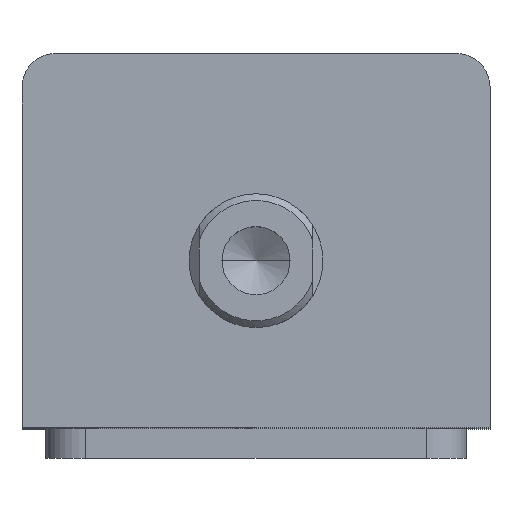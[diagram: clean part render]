
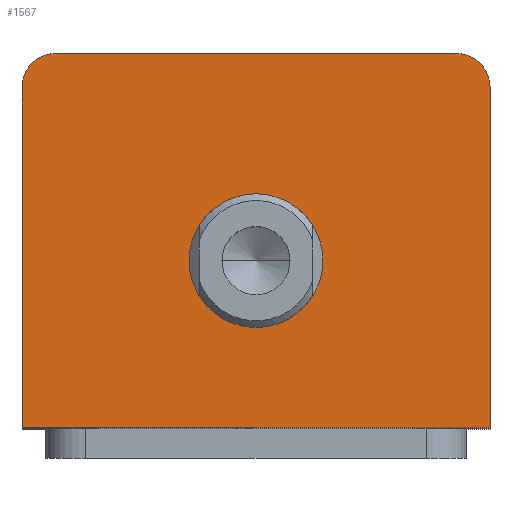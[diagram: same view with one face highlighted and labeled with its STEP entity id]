
A CAD part, top view. The second image highlights one B-rep face of the part: STEP entity #1567.
In plain terms, the highlighted planar face has unit normal (0, 0, 1).
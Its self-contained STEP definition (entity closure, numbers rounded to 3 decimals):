
#7 = VERTEX_POINT ( 'NONE', #2868 ) ;
#14 = VERTEX_POINT ( 'NONE', #2767 ) ;
#72 = VERTEX_POINT ( 'NONE', #2739 ) ;
#78 = VERTEX_POINT ( 'NONE', #2736 ) ;
#104 = VERTEX_POINT ( 'NONE', #1036 ) ;
#121 = VERTEX_POINT ( 'NONE', #945 ) ;
#123 = VERTEX_POINT ( 'NONE', #931 ) ;
#242 = AXIS2_PLACEMENT_3D ( 'NONE', #2169, #2168, #2167 ) ;
#284 = AXIS2_PLACEMENT_3D ( 'NONE', #1346, #1341, #1338 ) ;
#362 = EDGE_CURVE ( 'NONE', #72, #78, #664, .T. ) ;
#364 = EDGE_CURVE ( 'NONE', #104, #121, #667, .T. ) ;
#365 = EDGE_CURVE ( 'NONE', #121, #123, #670, .T. ) ;
#377 = ORIENTED_EDGE ( 'NONE', *, *, #362, .F. ) ;
#378 = EDGE_CURVE ( 'NONE', #1056, #14, #693, .T. ) ;
#381 = ORIENTED_EDGE ( 'NONE', *, *, #502, .T. ) ;
#383 = ORIENTED_EDGE ( 'NONE', *, *, #378, .T. ) ;
#471 = EDGE_CURVE ( 'NONE', #7, #104, #714, .T. ) ;
#502 = EDGE_CURVE ( 'NONE', #14, #7, #1670, .T. ) ;
#606 = EDGE_CURVE ( 'NONE', #123, #1056, #1698, .T. ) ;
#631 = EDGE_LOOP ( 'NONE', ( #377, #3029 ) ) ;
#641 = EDGE_LOOP ( 'NONE', ( #3030, #2975, #383, #381, #3057, #3049 ) ) ;
#664 = CIRCLE ( 'NONE', #2293, 10. ) ;
#667 = LINE ( 'NONE', #1015, #673 ) ;
#670 = LINE ( 'NONE', #1016, #676 ) ;
#673 = VECTOR ( 'NONE', #1020, 1000. ) ;
#676 = VECTOR ( 'NONE', #1010, 1000. ) ;
#693 = LINE ( 'NONE', #989, #696 ) ;
#696 = VECTOR ( 'NONE', #988, 1000. ) ;
#714 = LINE ( 'NONE', #959, #717 ) ;
#717 = VECTOR ( 'NONE', #954, 1000. ) ;
#789 = CARTESIAN_POINT ( 'NONE',  ( 30., 28., 99. ) ) ;
#864 = DIRECTION ( 'NONE',  ( 1., 0., 0. ) ) ;
#865 = DIRECTION ( 'NONE',  ( 0., 0., 1. ) ) ;
#866 = CARTESIAN_POINT ( 'NONE',  ( 30., 23., 99. ) ) ;
#926 = DIRECTION ( 'NONE',  ( 1., 0., 0. ) ) ;
#928 = DIRECTION ( 'NONE',  ( 0., 0., 1. ) ) ;
#929 = CARTESIAN_POINT ( 'NONE',  ( -30., 23., 99. ) ) ;
#931 = CARTESIAN_POINT ( 'NONE',  ( 35., 23., 99. ) ) ;
#945 = CARTESIAN_POINT ( 'NONE',  ( 35., -28., 99. ) ) ;
#954 = DIRECTION ( 'NONE',  ( 0., -1., 0. ) ) ;
#959 = CARTESIAN_POINT ( 'NONE',  ( -35., 28., 99. ) ) ;
#988 = DIRECTION ( 'NONE',  ( -1., 0., 0. ) ) ;
#989 = CARTESIAN_POINT ( 'NONE',  ( -35., 28., 99. ) ) ;
#1010 = DIRECTION ( 'NONE',  ( 0., 1., 0. ) ) ;
#1015 = CARTESIAN_POINT ( 'NONE',  ( -35., -28., 99. ) ) ;
#1016 = CARTESIAN_POINT ( 'NONE',  ( 35., 28., 99. ) ) ;
#1017 = DIRECTION ( 'NONE',  ( 1., 0., 0. ) ) ;
#1018 = DIRECTION ( 'NONE',  ( 0., 0., 1. ) ) ;
#1019 = CARTESIAN_POINT ( 'NONE',  ( 0., -3., 99. ) ) ;
#1020 = DIRECTION ( 'NONE',  ( 1., 0., 0. ) ) ;
#1036 = CARTESIAN_POINT ( 'NONE',  ( -35., -28., 99. ) ) ;
#1056 = VERTEX_POINT ( 'NONE', #789 ) ;
#1338 = DIRECTION ( 'NONE',  ( 1., 0., 0. ) ) ;
#1341 = DIRECTION ( 'NONE',  ( 0., 0., 1. ) ) ;
#1346 = CARTESIAN_POINT ( 'NONE',  ( 0., 0., 99. ) ) ;
#1348 = PLANE ( 'NONE',  #284 ) ;
#1567 = ADVANCED_FACE ( 'NONE', ( #1874, #1878 ), #1348, .T. ) ;
#1670 = CIRCLE ( 'NONE', #2285, 5. ) ;
#1698 = CIRCLE ( 'NONE', #2255, 5. ) ;
#1874 = FACE_BOUND ( 'NONE', #631, .T. ) ;
#1878 = FACE_OUTER_BOUND ( 'NONE', #641, .T. ) ;
#2167 = DIRECTION ( 'NONE',  ( 1., 0., 0. ) ) ;
#2168 = DIRECTION ( 'NONE',  ( 0., 0., 1. ) ) ;
#2169 = CARTESIAN_POINT ( 'NONE',  ( 0., -3., 99. ) ) ;
#2255 = AXIS2_PLACEMENT_3D ( 'NONE', #866, #865, #864 ) ;
#2285 = AXIS2_PLACEMENT_3D ( 'NONE', #929, #928, #926 ) ;
#2293 = AXIS2_PLACEMENT_3D ( 'NONE', #1019, #1018, #1017 ) ;
#2365 = EDGE_CURVE ( 'NONE', #78, #72, #2529, .T. ) ;
#2529 = CIRCLE ( 'NONE', #242, 10. ) ;
#2736 = CARTESIAN_POINT ( 'NONE',  ( -10., -3., 99. ) ) ;
#2739 = CARTESIAN_POINT ( 'NONE',  ( 10., -3., 99. ) ) ;
#2767 = CARTESIAN_POINT ( 'NONE',  ( -30., 28., 99. ) ) ;
#2868 = CARTESIAN_POINT ( 'NONE',  ( -35., 23., 99. ) ) ;
#2975 = ORIENTED_EDGE ( 'NONE', *, *, #606, .T. ) ;
#3029 = ORIENTED_EDGE ( 'NONE', *, *, #2365, .F. ) ;
#3030 = ORIENTED_EDGE ( 'NONE', *, *, #365, .T. ) ;
#3049 = ORIENTED_EDGE ( 'NONE', *, *, #364, .T. ) ;
#3057 = ORIENTED_EDGE ( 'NONE', *, *, #471, .T. ) ;
